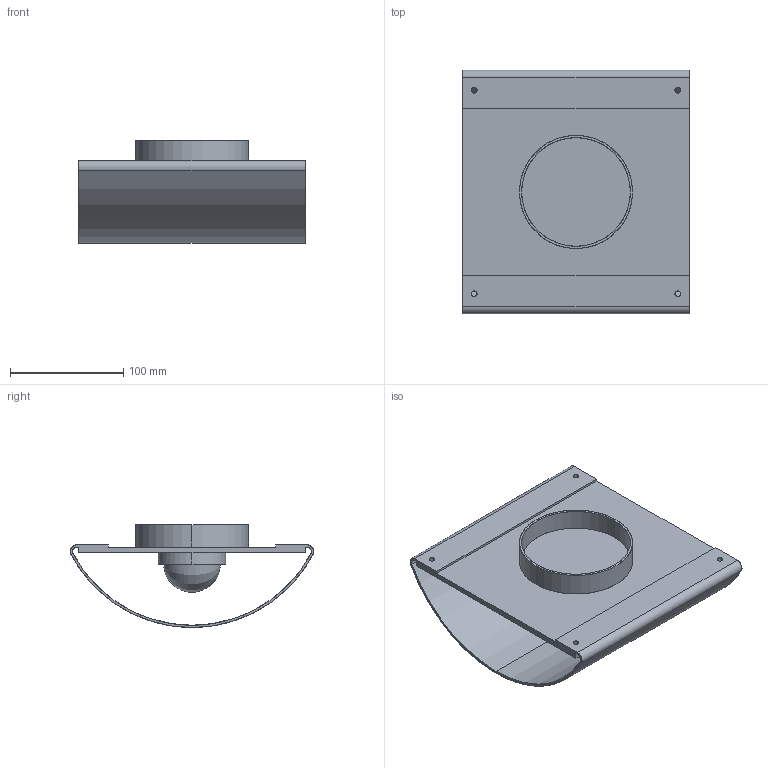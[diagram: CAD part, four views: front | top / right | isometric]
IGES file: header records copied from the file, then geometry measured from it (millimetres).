
Start section: SolidWorks IGES file using analytic representation for surfaces
Global section: file name: C:\Users\adrian\Desktop\Nueva Coleccion Septiembre 2026\CEBO\CEBO_A1360.IGS; native system: SolidWorks 2023; preprocessor: SolidWorks 2023; author: adrian; date: 260622.151023; units: millimetre
Bounding box: 200 x 215.09 x 91.03 mm (x, y, z)
Surface area: 219288.5 mm2 (no closed solid volume)
Topology: 0 solids, 0 shells, 39 faces, 986 edges, 986 vertices
Faces by surface type: revolution 23, bspline 16
